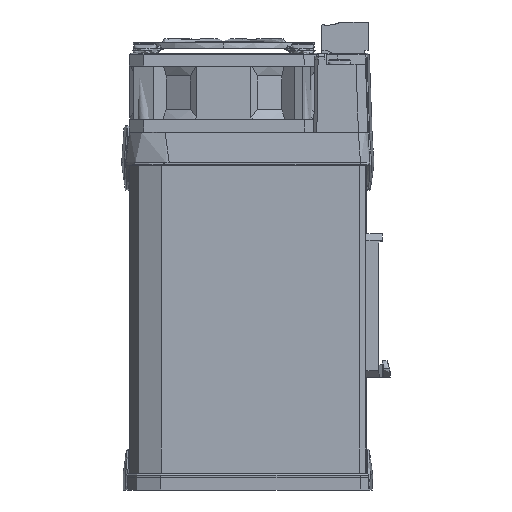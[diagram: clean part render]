
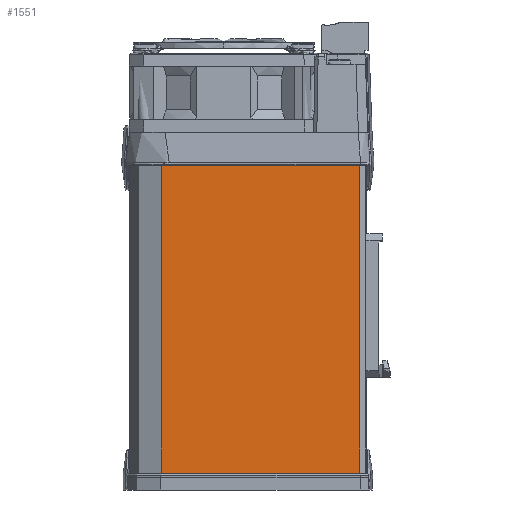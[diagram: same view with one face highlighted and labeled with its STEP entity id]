
A CAD part, left-side view. The second image highlights one B-rep face of the part: STEP entity #1551.
In plain terms, the highlighted planar face has unit normal (-1, 0, 0) as drawn and (0, 1, 0) by its records, which use the part's own axes.
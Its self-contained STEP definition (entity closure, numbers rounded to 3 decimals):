
#1551=ADVANCED_FACE('',(#2500),#16127,.T.);
#2500=FACE_OUTER_BOUND('',#3455,.T.);
#3455=EDGE_LOOP('',(#4829,#4830,#4831,#4832));
#4829=ORIENTED_EDGE('',*,*,#9631,.F.);
#4830=ORIENTED_EDGE('',*,*,#9650,.F.);
#4831=ORIENTED_EDGE('',*,*,#9648,.F.);
#4832=ORIENTED_EDGE('',*,*,#9651,.T.);
#9631=EDGE_CURVE('',#14593,#14590,#12074,.T.);
#9648=EDGE_CURVE('',#14604,#14605,#12086,.T.);
#9650=EDGE_CURVE('',#14605,#14593,#12087,.T.);
#9651=EDGE_CURVE('',#14604,#14590,#12088,.T.);
#12074=B_SPLINE_CURVE_WITH_KNOTS('',1,(#19741,#19742),.UNSPECIFIED.,.F.,
 .F.,(2,2),(0.,100.),.UNSPECIFIED.);
#12086=B_SPLINE_CURVE_WITH_KNOTS('',1,(#19780,#19781),.UNSPECIFIED.,.F.,
 .F.,(2,2),(0.,100.),.UNSPECIFIED.);
#12087=B_SPLINE_CURVE_WITH_KNOTS('',1,(#19785,#19786),.UNSPECIFIED.,.F.,
 .F.,(2,2),(0.,63.),.UNSPECIFIED.);
#12088=B_SPLINE_CURVE_WITH_KNOTS('',1,(#19787,#19788),.UNSPECIFIED.,.F.,
 .F.,(2,2),(-63.,0.),.UNSPECIFIED.);
#14590=VERTEX_POINT('',#19717);
#14593=VERTEX_POINT('',#19720);
#14604=VERTEX_POINT('',#19731);
#14605=VERTEX_POINT('',#19732);
#16127=PLANE('',#17402);
#17402=AXIS2_PLACEMENT_3D('',#19714,#18079,$);
#18079=DIRECTION('',(0.,1.,0.));
#19714=CARTESIAN_POINT('',(-71.3,24.5,-10.));
#19717=CARTESIAN_POINT('',(-65.,24.5,0.));
#19720=CARTESIAN_POINT('',(-65.,24.5,100.));
#19731=CARTESIAN_POINT('',(-2.,24.5,0.));
#19732=CARTESIAN_POINT('',(-2.,24.5,100.));
#19741=CARTESIAN_POINT('',(-65.,24.5,100.));
#19742=CARTESIAN_POINT('',(-65.,24.5,0.));
#19780=CARTESIAN_POINT('',(-2.,24.5,0.));
#19781=CARTESIAN_POINT('',(-2.,24.5,100.));
#19785=CARTESIAN_POINT('',(-2.,24.5,100.));
#19786=CARTESIAN_POINT('',(-65.,24.5,100.));
#19787=CARTESIAN_POINT('',(-2.,24.5,0.));
#19788=CARTESIAN_POINT('',(-65.,24.5,0.));
